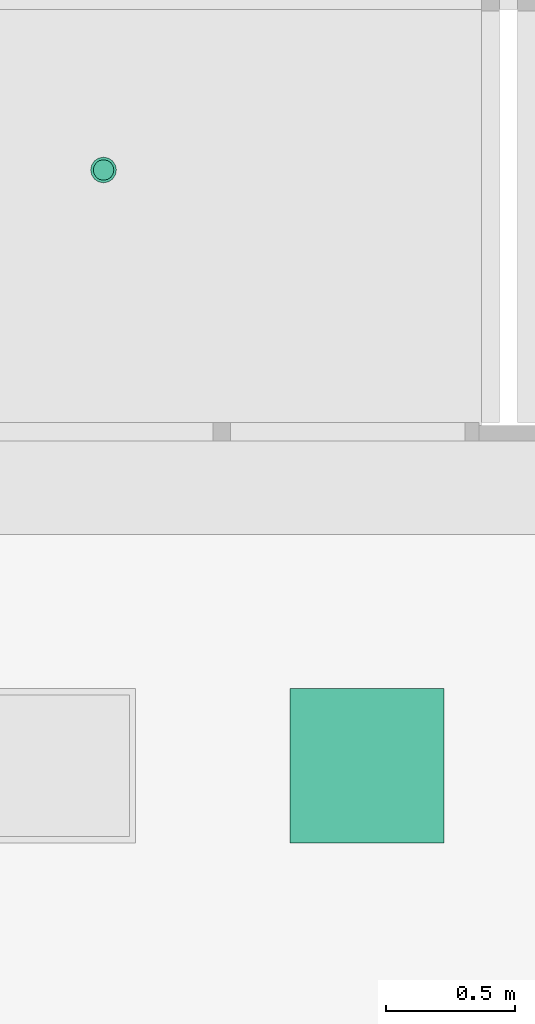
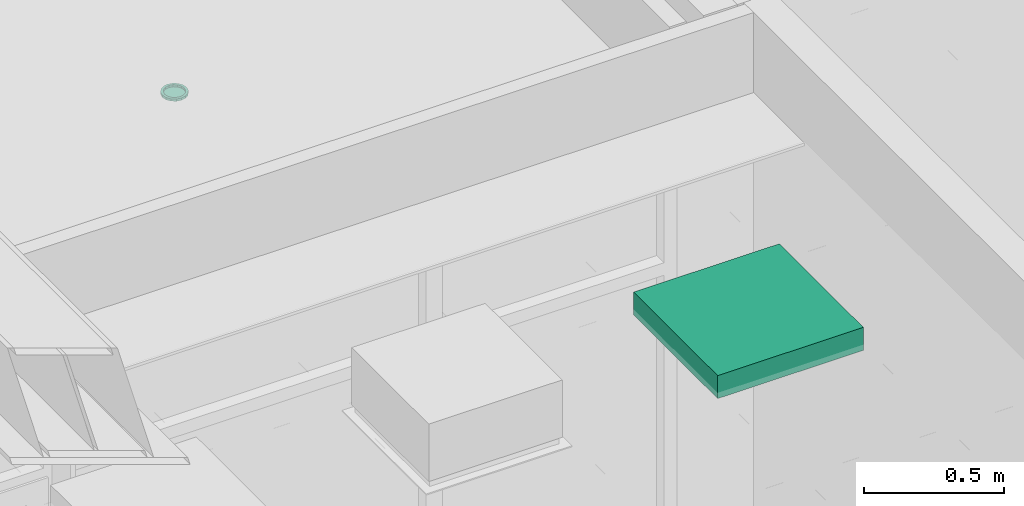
# One storey, part 295 of 347: 2 flow terminals.
"""IFC2X3 building model written with IfcOpenShell, lengths in millimetres."""

from ifc_helpers import new_model, entity, si_unit, converted_unit, derived_unit, money_unit, direction, frame, origin_with_axes, place, context, subcontext, project, spatial, open_shell, faceted_brep, surface_model, source, transform, mapped, type_object, type_shapes, element, save


model = new_model("IFC2X3")

# Units and contexts
model_context = context("Model", 3, precision=0.01, world=origin_with_axes(), true_north=direction((0.0, 1.0)))
plan_context = context("Plan", 3, precision=0.01, world=origin_with_axes(), true_north=direction((0.0, 1.0)))
body_context = subcontext(model_context, "Body", "Model", "MODEL_VIEW")
ifc_project = project(units=[si_unit("LENGTHUNIT", "METRE", prefix="MILLI"), si_unit("AREAUNIT", "SQUARE_METRE"), si_unit("VOLUMEUNIT", "CUBIC_METRE"), converted_unit("PLANEANGLEUNIT", "DEGREE", entity("IfcPlaneAngleMeasure", 0.0174532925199), si_unit("PLANEANGLEUNIT", "RADIAN"), dimensions=[0, 0, 0, 0, 0, 0, 0]), money_unit("EUR"), converted_unit("TIMEUNIT", "Year", entity("IfcTimeMeasure", 31556926.0), si_unit("TIMEUNIT", "SECOND"), dimensions=[0, 0, 1, 0, 0, 0, 0]), si_unit("MASSUNIT", "GRAM", prefix="KILO"), si_unit("THERMODYNAMICTEMPERATUREUNIT", "DEGREE_CELSIUS"), si_unit("LUMINOUSINTENSITYUNIT", "LUMEN"), si_unit("ENERGYUNIT", "JOULE", prefix="MEGA"), derived_unit("THERMALCONDUCTANCEUNIT", [(si_unit("POWERUNIT", "WATT"), 1), (si_unit("LENGTHUNIT", "METRE"), -1), (si_unit("THERMODYNAMICTEMPERATUREUNIT", "KELVIN"), -1)]), derived_unit("SPECIFICHEATCAPACITYUNIT", [(si_unit("ENERGYUNIT", "JOULE"), 1), (si_unit("MASSUNIT", "GRAM", prefix="KILO"), -1), (si_unit("THERMODYNAMICTEMPERATUREUNIT", "KELVIN"), -1)]), derived_unit("MASSDENSITYUNIT", [(si_unit("MASSUNIT", "GRAM", prefix="KILO"), 1), (si_unit("VOLUMEUNIT", "CUBIC_METRE"), -1)])], contexts=[model_context, plan_context])

# Site, building, storey
site_placement = place(None, origin_with_axes())
site = spatial("IfcSite", under=ifc_project, at=site_placement, Name="Site", CompositionType="ELEMENT")
building_placement = place(site_placement, origin_with_axes())
building = spatial("IfcBuilding", under=site, at=building_placement, Name="Naam gebouw", CompositionType="ELEMENT")
storey_placement = place(building_placement, origin_with_axes())
storey = spatial("IfcBuildingStorey", under=building, at=storey_placement, Name="begane grond", CompositionType="ELEMENT", Elevation=0.0)

# Flow terminals
lamp_type_1 = type_object("IfcLampType", Name="Spot plafond 01 25", PredefinedType="NOTDEFINED")
shared_shape_1 = source(origin_with_axes(), body_context, "Body", "SurfaceModel", [
    faceted_brep([(-50.0, 0.0, -10.0), (-50.0, 0.0, 0.0), (-46.1939766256, 19.1341716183, 0.0), (-46.1939766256, 19.1341716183, -10.0), (-46.1939766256, -19.1341716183, -10.0), (-46.1939766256, -19.1341716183, 0.0), (-35.3553390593, -35.3553390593, 0.0), (-19.1341716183, -46.1939766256, 0.0), (0.0, -50.0, 0.0), (19.1341716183, -46.1939766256, 0.0), (35.3553390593, -35.3553390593, 0.0), (46.1939766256, -19.1341716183, 0.0), (50.0, 0.0, 0.0), (46.1939766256, 19.1341716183, 0.0), (35.3553390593, 35.3553390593, 0.0), (19.1341716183, 46.1939766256, 0.0), (0.0, 50.0, 0.0), (-19.1341716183, 46.1939766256, 0.0), (-35.3553390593, 35.3553390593, 0.0), (-40.0, 0.0, 0.0), (-36.9551813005, 15.3073372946, 0.0), (-28.2842712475, 28.2842712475, 0.0), (-15.3073372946, 36.9551813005, 0.0), (0.0, 40.0, 0.0), (15.3073372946, 36.9551813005, 0.0), (28.2842712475, 28.2842712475, 0.0), (36.9551813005, 15.3073372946, 0.0), (40.0, 0.0, 0.0), (36.9551813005, -15.3073372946, 0.0), (28.2842712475, -28.2842712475, 0.0), (15.3073372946, -36.9551813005, 0.0), (0.0, -40.0, 0.0), (-15.3073372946, -36.9551813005, 0.0), (-28.2842712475, -28.2842712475, 0.0), (-36.9551813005, -15.3073372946, 0.0), (-35.3553390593, 35.3553390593, -10.0), (-19.1341716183, 46.1939766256, -10.0), (0.0, 50.0, -10.0), (19.1341716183, 46.1939766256, -10.0), (35.3553390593, 35.3553390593, -10.0), (46.1939766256, 19.1341716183, -10.0), (50.0, 0.0, -10.0), (46.1939766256, -19.1341716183, -10.0), (35.3553390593, -35.3553390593, -10.0), (19.1341716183, -46.1939766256, -10.0), (0.0, -50.0, -10.0), (-19.1341716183, -46.1939766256, -10.0), (-35.3553390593, -35.3553390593, -10.0), (-40.0, 0.0, -10.0), (-36.9551813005, -15.3073372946, -10.0), (-28.2842712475, -28.2842712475, -10.0), (-15.3073372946, -36.9551813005, -10.0), (0.0, -40.0, -10.0), (15.3073372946, -36.9551813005, -10.0), (28.2842712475, -28.2842712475, -10.0), (36.9551813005, -15.3073372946, -10.0), (40.0, 0.0, -10.0), (36.9551813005, 15.3073372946, -10.0), (28.2842712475, 28.2842712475, -10.0), (15.3073372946, 36.9551813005, -10.0), (0.0, 40.0, -10.0), (-15.3073372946, 36.9551813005, -10.0), (-28.2842712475, 28.2842712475, -10.0), (-36.9551813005, 15.3073372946, -10.0)], [[[0, 1, 2, 3]], [[4, 5, 1, 0]], [[1, 5, 6, 7, 8, 9, 10, 11, 12, 13, 14, 15, 16, 17, 18, 2], [19, 20, 21, 22, 23, 24, 25, 26, 27, 28, 29, 30, 31, 32, 33, 34]], [[3, 2, 18, 35]], [[0, 3, 35, 36, 37, 38, 39, 40, 41, 42, 43, 44, 45, 46, 47, 4], [48, 49, 50, 51, 52, 53, 54, 55, 56, 57, 58, 59, 60, 61, 62, 63]], [[47, 6, 5, 4]], [[46, 7, 6, 47]], [[45, 8, 7, 46]], [[44, 9, 8, 45]], [[43, 10, 9, 44]], [[42, 11, 10, 43]], [[41, 12, 11, 42]], [[40, 13, 12, 41]], [[39, 14, 13, 40]], [[38, 15, 14, 39]], [[37, 16, 15, 38]], [[36, 17, 16, 37]], [[35, 18, 17, 36]], [[63, 20, 19, 48]], [[62, 21, 20, 63]], [[61, 22, 21, 62]], [[60, 23, 22, 61]], [[59, 24, 23, 60]], [[58, 25, 24, 59]], [[57, 26, 25, 58]], [[56, 27, 26, 57]], [[55, 28, 27, 56]], [[54, 29, 28, 55]], [[53, 30, 29, 54]], [[52, 31, 30, 53]], [[51, 32, 31, 52]], [[50, 33, 32, 51]], [[49, 34, 33, 50]], [[48, 19, 34, 49]]]),
    surface_model("IfcShellBasedSurfaceModel", [(-40.0, 0.0, -8.9), (-36.9551813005, 15.3073372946, -8.9), (-28.2842712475, 28.2842712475, -8.9), (-15.3073372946, 36.9551813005, -8.9), (0.0, 40.0, -8.9), (15.3073372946, 36.9551813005, -8.9), (28.2842712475, 28.2842712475, -8.9), (36.9551813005, 15.3073372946, -8.9), (40.0, 0.0, -8.9), (36.9551813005, -15.3073372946, -8.9), (28.2842712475, -28.2842712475, -8.9), (15.3073372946, -36.9551813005, -8.9), (0.0, -40.0, -8.9), (-15.3073372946, -36.9551813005, -8.9), (-28.2842712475, -28.2842712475, -8.9), (-36.9551813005, -15.3073372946, -8.9)], [open_shell([[[0, 1, 2, 3, 4, 5, 6, 7, 8, 9, 10, 11, 12, 13, 14, 15]]])]),
])
type_shapes(lamp_type_1, [shared_shape_1])
flow_terminal_1_placement = place(storey_placement, frame((46175.0, 46208.0, 3200.0), z_axis=(0.0, 0.0, 1.0), x_axis=(1.0, 0.0, 0.0)))
element("IfcFlowTerminal", 1, at=flow_terminal_1_placement, inside=storey, type_object=lamp_type_1, Name="63_Lamp-x", ObjectType="Lamp", context=body_context, shape_type="MappedRepresentation", body=[
    mapped(shared_shape_1, transform((0.0, 0.0, 0.0))),
])
lamp_type_2 = type_object("IfcLampType", Name="TL plafond 25", PredefinedType="NOTDEFINED")
shared_shape_2 = source(origin_with_axes(), body_context, "Body", "SurfaceModel", [
    faceted_brep([(0.0, 0.0, -100.0), (0.0, 0.0, 0.0), (-600.0, 0.0, 0.0), (-600.0, 0.0, -100.0), (0.0, 600.0, -100.0), (0.0, 600.0, 0.0), (-600.0, 600.0, 0.0), (-40.0, 40.0, 0.0), (-560.0, 40.0, 0.0), (-560.0, 560.0, 0.0), (-40.0, 560.0, 0.0), (-600.0, 600.0, -100.0), (-40.0, 40.0, -100.0), (-40.0, 560.0, -100.0), (-560.0, 560.0, -100.0), (-560.0, 40.0, -100.0)], [[[0, 1, 2, 3]], [[4, 5, 1, 0]], [[1, 5, 6, 2], [7, 8, 9, 10]], [[3, 2, 6, 11]], [[0, 3, 11, 4], [12, 13, 14, 15]], [[11, 6, 5, 4]], [[15, 8, 7, 12]], [[14, 9, 8, 15]], [[13, 10, 9, 14]], [[12, 7, 10, 13]]]),
    faceted_brep([(-40.0, 40.0, -16.3333333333), (-40.0, 40.0, 0.0), (-560.0, 40.0, 0.0), (-560.0, 40.0, -16.3333333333), (-40.0, 560.0, -16.3333333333), (-40.0, 560.0, 0.0), (-560.0, 560.0, 0.0), (-560.0, 560.0, -16.3333333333)], [[[0, 1, 2, 3]], [[4, 5, 1, 0]], [[1, 5, 6, 2]], [[3, 2, 6, 7]], [[0, 3, 7, 4]], [[7, 6, 5, 4]]]),
    surface_model("IfcShellBasedSurfaceModel", [(-559.0, 41.0, -100.0), (-559.0, 559.0, -100.0), (-40.0, 559.0, -100.0), (-40.0, 41.0, -100.0)], [open_shell([[[0, 1, 2, 3]]])]),
    faceted_brep([(-40.0, 40.0, -100.0), (-40.0, 40.0, -60.0), (-560.0, 40.0, -60.0), (-560.0, 40.0, -100.0), (-40.0, 560.0, -100.0), (-40.0, 560.0, -60.0), (-560.0, 560.0, -60.0), (-41.0, 41.0, -60.0), (-559.0, 41.0, -60.0), (-559.0, 559.0, -60.0), (-41.0, 559.0, -60.0), (-560.0, 560.0, -100.0), (-41.0, 41.0, -100.0), (-41.0, 559.0, -100.0), (-559.0, 559.0, -100.0), (-559.0, 41.0, -100.0)], [[[0, 1, 2, 3]], [[4, 5, 1, 0]], [[1, 5, 6, 2], [7, 8, 9, 10]], [[3, 2, 6, 11]], [[0, 3, 11, 4], [12, 13, 14, 15]], [[11, 6, 5, 4]], [[15, 8, 7, 12]], [[14, 9, 8, 15]], [[13, 10, 9, 14]], [[12, 7, 10, 13]]]),
    faceted_brep([(-40.0, 144.0, -48.3333333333), (-560.0, 144.0, -48.3333333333), (-560.0, 149.740251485, -47.191526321), (-40.0, 149.740251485, -47.191526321), (-40.0, 138.259748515, -47.191526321), (-560.0, 138.259748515, -47.191526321), (-560.0, 133.393398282, -43.9399350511), (-560.0, 130.141807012, -39.0735848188), (-560.0, 129.0, -33.3333333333), (-560.0, 130.141807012, -27.5930818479), (-560.0, 133.393398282, -22.7267316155), (-560.0, 138.259748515, -19.4751403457), (-560.0, 144.0, -18.3333333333), (-560.0, 149.740251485, -19.4751403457), (-560.0, 154.606601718, -22.7267316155), (-560.0, 157.858192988, -27.5930818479), (-560.0, 159.0, -33.3333333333), (-560.0, 157.858192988, -39.0735848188), (-560.0, 154.606601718, -43.9399350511), (-560.0, 144.0, -46.3333333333), (-560.0, 148.974884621, -45.343767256), (-560.0, 153.192388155, -42.5257214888), (-560.0, 156.010433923, -38.3082179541), (-560.0, 157.0, -33.3333333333), (-560.0, 156.010433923, -28.3584487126), (-560.0, 153.192388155, -24.1409451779), (-560.0, 148.974884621, -21.3228994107), (-560.0, 144.0, -20.3333333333), (-560.0, 139.025115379, -21.3228994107), (-560.0, 134.807611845, -24.1409451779), (-560.0, 131.989566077, -28.3584487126), (-560.0, 131.0, -33.3333333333), (-560.0, 131.989566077, -38.3082179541), (-560.0, 134.807611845, -42.5257214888), (-560.0, 139.025115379, -45.343767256), (-40.0, 154.606601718, -43.9399350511), (-40.0, 157.858192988, -39.0735848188), (-40.0, 159.0, -33.3333333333), (-40.0, 157.858192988, -27.5930818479), (-40.0, 154.606601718, -22.7267316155), (-40.0, 149.740251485, -19.4751403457), (-40.0, 144.0, -18.3333333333), (-40.0, 138.259748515, -19.4751403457), (-40.0, 133.393398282, -22.7267316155), (-40.0, 130.141807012, -27.5930818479), (-40.0, 129.0, -33.3333333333), (-40.0, 130.141807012, -39.0735848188), (-40.0, 133.393398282, -43.9399350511), (-40.0, 144.0, -46.3333333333), (-40.0, 139.025115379, -45.343767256), (-40.0, 134.807611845, -42.5257214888), (-40.0, 131.989566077, -38.3082179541), (-40.0, 131.0, -33.3333333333), (-40.0, 131.989566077, -28.3584487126), (-40.0, 134.807611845, -24.1409451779), (-40.0, 139.025115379, -21.3228994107), (-40.0, 144.0, -20.3333333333), (-40.0, 148.974884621, -21.3228994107), (-40.0, 153.192388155, -24.1409451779), (-40.0, 156.010433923, -28.3584487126), (-40.0, 157.0, -33.3333333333), (-40.0, 156.010433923, -38.3082179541), (-40.0, 153.192388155, -42.5257214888), (-40.0, 148.974884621, -45.343767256)], [[[0, 1, 2, 3]], [[4, 5, 1, 0]], [[1, 5, 6, 7, 8, 9, 10, 11, 12, 13, 14, 15, 16, 17, 18, 2], [19, 20, 21, 22, 23, 24, 25, 26, 27, 28, 29, 30, 31, 32, 33, 34]], [[3, 2, 18, 35]], [[0, 3, 35, 36, 37, 38, 39, 40, 41, 42, 43, 44, 45, 46, 47, 4], [48, 49, 50, 51, 52, 53, 54, 55, 56, 57, 58, 59, 60, 61, 62, 63]], [[47, 6, 5, 4]], [[46, 7, 6, 47]], [[45, 8, 7, 46]], [[44, 9, 8, 45]], [[43, 10, 9, 44]], [[42, 11, 10, 43]], [[41, 12, 11, 42]], [[40, 13, 12, 41]], [[39, 14, 13, 40]], [[38, 15, 14, 39]], [[37, 16, 15, 38]], [[36, 17, 16, 37]], [[35, 18, 17, 36]], [[63, 20, 19, 48]], [[62, 21, 20, 63]], [[61, 22, 21, 62]], [[60, 23, 22, 61]], [[59, 24, 23, 60]], [[58, 25, 24, 59]], [[57, 26, 25, 58]], [[56, 27, 26, 57]], [[55, 28, 27, 56]], [[54, 29, 28, 55]], [[53, 30, 29, 54]], [[52, 31, 30, 53]], [[51, 32, 31, 52]], [[50, 33, 32, 51]], [[49, 34, 33, 50]], [[48, 19, 34, 49]]]),
    faceted_brep([(-40.0, 248.0, -48.3333333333), (-560.0, 248.0, -48.3333333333), (-560.0, 253.740251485, -47.191526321), (-40.0, 253.740251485, -47.191526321), (-40.0, 242.259748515, -47.191526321), (-560.0, 242.259748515, -47.191526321), (-560.0, 237.393398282, -43.9399350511), (-560.0, 234.141807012, -39.0735848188), (-560.0, 233.0, -33.3333333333), (-560.0, 234.141807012, -27.5930818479), (-560.0, 237.393398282, -22.7267316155), (-560.0, 242.259748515, -19.4751403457), (-560.0, 248.0, -18.3333333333), (-560.0, 253.740251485, -19.4751403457), (-560.0, 258.606601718, -22.7267316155), (-560.0, 261.858192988, -27.5930818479), (-560.0, 263.0, -33.3333333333), (-560.0, 261.858192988, -39.0735848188), (-560.0, 258.606601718, -43.9399350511), (-560.0, 248.0, -46.3333333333), (-560.0, 252.974884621, -45.343767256), (-560.0, 257.192388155, -42.5257214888), (-560.0, 260.010433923, -38.3082179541), (-560.0, 261.0, -33.3333333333), (-560.0, 260.010433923, -28.3584487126), (-560.0, 257.192388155, -24.1409451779), (-560.0, 252.974884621, -21.3228994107), (-560.0, 248.0, -20.3333333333), (-560.0, 243.025115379, -21.3228994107), (-560.0, 238.807611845, -24.1409451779), (-560.0, 235.989566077, -28.3584487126), (-560.0, 235.0, -33.3333333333), (-560.0, 235.989566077, -38.3082179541), (-560.0, 238.807611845, -42.5257214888), (-560.0, 243.025115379, -45.343767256), (-40.0, 258.606601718, -43.9399350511), (-40.0, 261.858192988, -39.0735848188), (-40.0, 263.0, -33.3333333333), (-40.0, 261.858192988, -27.5930818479), (-40.0, 258.606601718, -22.7267316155), (-40.0, 253.740251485, -19.4751403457), (-40.0, 248.0, -18.3333333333), (-40.0, 242.259748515, -19.4751403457), (-40.0, 237.393398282, -22.7267316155), (-40.0, 234.141807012, -27.5930818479), (-40.0, 233.0, -33.3333333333), (-40.0, 234.141807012, -39.0735848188), (-40.0, 237.393398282, -43.9399350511), (-40.0, 248.0, -46.3333333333), (-40.0, 243.025115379, -45.343767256), (-40.0, 238.807611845, -42.5257214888), (-40.0, 235.989566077, -38.3082179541), (-40.0, 235.0, -33.3333333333), (-40.0, 235.989566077, -28.3584487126), (-40.0, 238.807611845, -24.1409451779), (-40.0, 243.025115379, -21.3228994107), (-40.0, 248.0, -20.3333333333), (-40.0, 252.974884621, -21.3228994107), (-40.0, 257.192388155, -24.1409451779), (-40.0, 260.010433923, -28.3584487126), (-40.0, 261.0, -33.3333333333), (-40.0, 260.010433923, -38.3082179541), (-40.0, 257.192388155, -42.5257214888), (-40.0, 252.974884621, -45.343767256)], [[[0, 1, 2, 3]], [[4, 5, 1, 0]], [[1, 5, 6, 7, 8, 9, 10, 11, 12, 13, 14, 15, 16, 17, 18, 2], [19, 20, 21, 22, 23, 24, 25, 26, 27, 28, 29, 30, 31, 32, 33, 34]], [[3, 2, 18, 35]], [[0, 3, 35, 36, 37, 38, 39, 40, 41, 42, 43, 44, 45, 46, 47, 4], [48, 49, 50, 51, 52, 53, 54, 55, 56, 57, 58, 59, 60, 61, 62, 63]], [[47, 6, 5, 4]], [[46, 7, 6, 47]], [[45, 8, 7, 46]], [[44, 9, 8, 45]], [[43, 10, 9, 44]], [[42, 11, 10, 43]], [[41, 12, 11, 42]], [[40, 13, 12, 41]], [[39, 14, 13, 40]], [[38, 15, 14, 39]], [[37, 16, 15, 38]], [[36, 17, 16, 37]], [[35, 18, 17, 36]], [[63, 20, 19, 48]], [[62, 21, 20, 63]], [[61, 22, 21, 62]], [[60, 23, 22, 61]], [[59, 24, 23, 60]], [[58, 25, 24, 59]], [[57, 26, 25, 58]], [[56, 27, 26, 57]], [[55, 28, 27, 56]], [[54, 29, 28, 55]], [[53, 30, 29, 54]], [[52, 31, 30, 53]], [[51, 32, 31, 52]], [[50, 33, 32, 51]], [[49, 34, 33, 50]], [[48, 19, 34, 49]]]),
    faceted_brep([(-40.0, 352.0, -48.3333333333), (-560.0, 352.0, -48.3333333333), (-560.0, 357.740251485, -47.191526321), (-40.0, 357.740251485, -47.191526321), (-40.0, 346.259748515, -47.191526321), (-560.0, 346.259748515, -47.191526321), (-560.0, 341.393398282, -43.9399350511), (-560.0, 338.141807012, -39.0735848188), (-560.0, 337.0, -33.3333333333), (-560.0, 338.141807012, -27.5930818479), (-560.0, 341.393398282, -22.7267316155), (-560.0, 346.259748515, -19.4751403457), (-560.0, 352.0, -18.3333333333), (-560.0, 357.740251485, -19.4751403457), (-560.0, 362.606601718, -22.7267316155), (-560.0, 365.858192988, -27.5930818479), (-560.0, 367.0, -33.3333333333), (-560.0, 365.858192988, -39.0735848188), (-560.0, 362.606601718, -43.9399350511), (-560.0, 352.0, -46.3333333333), (-560.0, 356.974884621, -45.343767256), (-560.0, 361.192388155, -42.5257214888), (-560.0, 364.010433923, -38.3082179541), (-560.0, 365.0, -33.3333333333), (-560.0, 364.010433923, -28.3584487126), (-560.0, 361.192388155, -24.1409451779), (-560.0, 356.974884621, -21.3228994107), (-560.0, 352.0, -20.3333333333), (-560.0, 347.025115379, -21.3228994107), (-560.0, 342.807611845, -24.1409451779), (-560.0, 339.989566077, -28.3584487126), (-560.0, 339.0, -33.3333333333), (-560.0, 339.989566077, -38.3082179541), (-560.0, 342.807611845, -42.5257214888), (-560.0, 347.025115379, -45.343767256), (-40.0, 362.606601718, -43.9399350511), (-40.0, 365.858192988, -39.0735848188), (-40.0, 367.0, -33.3333333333), (-40.0, 365.858192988, -27.5930818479), (-40.0, 362.606601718, -22.7267316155), (-40.0, 357.740251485, -19.4751403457), (-40.0, 352.0, -18.3333333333), (-40.0, 346.259748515, -19.4751403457), (-40.0, 341.393398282, -22.7267316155), (-40.0, 338.141807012, -27.5930818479), (-40.0, 337.0, -33.3333333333), (-40.0, 338.141807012, -39.0735848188), (-40.0, 341.393398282, -43.9399350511), (-40.0, 352.0, -46.3333333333), (-40.0, 347.025115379, -45.343767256), (-40.0, 342.807611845, -42.5257214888), (-40.0, 339.989566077, -38.3082179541), (-40.0, 339.0, -33.3333333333), (-40.0, 339.989566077, -28.3584487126), (-40.0, 342.807611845, -24.1409451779), (-40.0, 347.025115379, -21.3228994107), (-40.0, 352.0, -20.3333333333), (-40.0, 356.974884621, -21.3228994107), (-40.0, 361.192388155, -24.1409451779), (-40.0, 364.010433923, -28.3584487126), (-40.0, 365.0, -33.3333333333), (-40.0, 364.010433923, -38.3082179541), (-40.0, 361.192388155, -42.5257214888), (-40.0, 356.974884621, -45.343767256)], [[[0, 1, 2, 3]], [[4, 5, 1, 0]], [[1, 5, 6, 7, 8, 9, 10, 11, 12, 13, 14, 15, 16, 17, 18, 2], [19, 20, 21, 22, 23, 24, 25, 26, 27, 28, 29, 30, 31, 32, 33, 34]], [[3, 2, 18, 35]], [[0, 3, 35, 36, 37, 38, 39, 40, 41, 42, 43, 44, 45, 46, 47, 4], [48, 49, 50, 51, 52, 53, 54, 55, 56, 57, 58, 59, 60, 61, 62, 63]], [[47, 6, 5, 4]], [[46, 7, 6, 47]], [[45, 8, 7, 46]], [[44, 9, 8, 45]], [[43, 10, 9, 44]], [[42, 11, 10, 43]], [[41, 12, 11, 42]], [[40, 13, 12, 41]], [[39, 14, 13, 40]], [[38, 15, 14, 39]], [[37, 16, 15, 38]], [[36, 17, 16, 37]], [[35, 18, 17, 36]], [[63, 20, 19, 48]], [[62, 21, 20, 63]], [[61, 22, 21, 62]], [[60, 23, 22, 61]], [[59, 24, 23, 60]], [[58, 25, 24, 59]], [[57, 26, 25, 58]], [[56, 27, 26, 57]], [[55, 28, 27, 56]], [[54, 29, 28, 55]], [[53, 30, 29, 54]], [[52, 31, 30, 53]], [[51, 32, 31, 52]], [[50, 33, 32, 51]], [[49, 34, 33, 50]], [[48, 19, 34, 49]]]),
    faceted_brep([(-40.0, 456.0, -48.3333333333), (-560.0, 456.0, -48.3333333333), (-560.0, 461.740251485, -47.191526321), (-40.0, 461.740251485, -47.191526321), (-40.0, 450.259748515, -47.191526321), (-560.0, 450.259748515, -47.191526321), (-560.0, 445.393398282, -43.9399350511), (-560.0, 442.141807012, -39.0735848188), (-560.0, 441.0, -33.3333333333), (-560.0, 442.141807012, -27.5930818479), (-560.0, 445.393398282, -22.7267316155), (-560.0, 450.259748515, -19.4751403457), (-560.0, 456.0, -18.3333333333), (-560.0, 461.740251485, -19.4751403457), (-560.0, 466.606601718, -22.7267316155), (-560.0, 469.858192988, -27.5930818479), (-560.0, 471.0, -33.3333333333), (-560.0, 469.858192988, -39.0735848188), (-560.0, 466.606601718, -43.9399350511), (-560.0, 456.0, -46.3333333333), (-560.0, 460.974884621, -45.343767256), (-560.0, 465.192388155, -42.5257214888), (-560.0, 468.010433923, -38.3082179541), (-560.0, 469.0, -33.3333333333), (-560.0, 468.010433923, -28.3584487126), (-560.0, 465.192388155, -24.1409451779), (-560.0, 460.974884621, -21.3228994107), (-560.0, 456.0, -20.3333333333), (-560.0, 451.025115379, -21.3228994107), (-560.0, 446.807611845, -24.1409451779), (-560.0, 443.989566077, -28.3584487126), (-560.0, 443.0, -33.3333333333), (-560.0, 443.989566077, -38.3082179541), (-560.0, 446.807611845, -42.5257214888), (-560.0, 451.025115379, -45.343767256), (-40.0, 466.606601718, -43.9399350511), (-40.0, 469.858192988, -39.0735848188), (-40.0, 471.0, -33.3333333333), (-40.0, 469.858192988, -27.5930818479), (-40.0, 466.606601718, -22.7267316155), (-40.0, 461.740251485, -19.4751403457), (-40.0, 456.0, -18.3333333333), (-40.0, 450.259748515, -19.4751403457), (-40.0, 445.393398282, -22.7267316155), (-40.0, 442.141807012, -27.5930818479), (-40.0, 441.0, -33.3333333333), (-40.0, 442.141807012, -39.0735848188), (-40.0, 445.393398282, -43.9399350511), (-40.0, 456.0, -46.3333333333), (-40.0, 451.025115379, -45.343767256), (-40.0, 446.807611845, -42.5257214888), (-40.0, 443.989566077, -38.3082179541), (-40.0, 443.0, -33.3333333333), (-40.0, 443.989566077, -28.3584487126), (-40.0, 446.807611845, -24.1409451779), (-40.0, 451.025115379, -21.3228994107), (-40.0, 456.0, -20.3333333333), (-40.0, 460.974884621, -21.3228994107), (-40.0, 465.192388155, -24.1409451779), (-40.0, 468.010433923, -28.3584487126), (-40.0, 469.0, -33.3333333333), (-40.0, 468.010433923, -38.3082179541), (-40.0, 465.192388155, -42.5257214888), (-40.0, 460.974884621, -45.343767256)], [[[0, 1, 2, 3]], [[4, 5, 1, 0]], [[1, 5, 6, 7, 8, 9, 10, 11, 12, 13, 14, 15, 16, 17, 18, 2], [19, 20, 21, 22, 23, 24, 25, 26, 27, 28, 29, 30, 31, 32, 33, 34]], [[3, 2, 18, 35]], [[0, 3, 35, 36, 37, 38, 39, 40, 41, 42, 43, 44, 45, 46, 47, 4], [48, 49, 50, 51, 52, 53, 54, 55, 56, 57, 58, 59, 60, 61, 62, 63]], [[47, 6, 5, 4]], [[46, 7, 6, 47]], [[45, 8, 7, 46]], [[44, 9, 8, 45]], [[43, 10, 9, 44]], [[42, 11, 10, 43]], [[41, 12, 11, 42]], [[40, 13, 12, 41]], [[39, 14, 13, 40]], [[38, 15, 14, 39]], [[37, 16, 15, 38]], [[36, 17, 16, 37]], [[35, 18, 17, 36]], [[63, 20, 19, 48]], [[62, 21, 20, 63]], [[61, 22, 21, 62]], [[60, 23, 22, 61]], [[59, 24, 23, 60]], [[58, 25, 24, 59]], [[57, 26, 25, 58]], [[56, 27, 26, 57]], [[55, 28, 27, 56]], [[54, 29, 28, 55]], [[53, 30, 29, 54]], [[52, 31, 30, 53]], [[51, 32, 31, 52]], [[50, 33, 32, 51]], [[49, 34, 33, 50]], [[48, 19, 34, 49]]]),
])
type_shapes(lamp_type_2, [shared_shape_2])
flow_terminal_2_placement = place(storey_placement, frame((47500.0, 43590.5, 3295.0), z_axis=(0.0, 0.0, 1.0), x_axis=(1.0, 0.0, 0.0)))
element("IfcFlowTerminal", 2, at=flow_terminal_2_placement, inside=storey, type_object=lamp_type_2, Name="63_Lamp-x", ObjectType="Lamp", context=body_context, shape_type="MappedRepresentation", body=[
    mapped(shared_shape_2, transform((0.0, 0.0, 0.0))),
])

save(model, "model.ifc")
